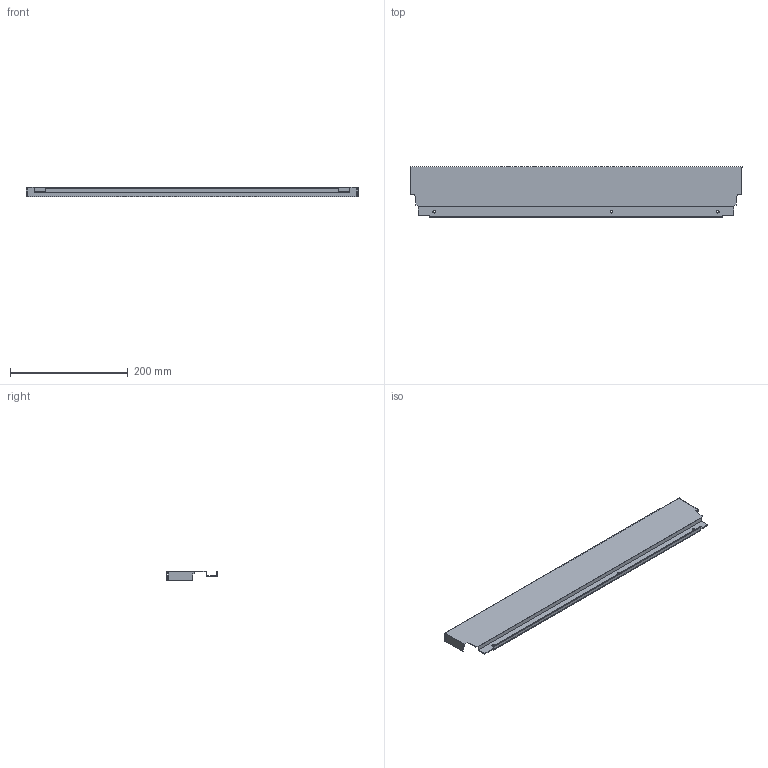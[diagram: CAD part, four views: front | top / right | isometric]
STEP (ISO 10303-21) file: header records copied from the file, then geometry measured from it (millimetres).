
FILE_DESCRIPTION (( 'STEP AP214' ), '1' );
FILE_NAME ('_DWD_XP Stahlrückwand_H86_KAB650_S19.step', '2010-07-08T12:10:35', ( 'grass' ), ( '' ), 'SwSTEP 2.0', 'SolidWorks 2010', '' );
FILE_SCHEMA (( 'AUTOMOTIVE_DESIGN' ));
Length unit declared in the file: millimetre
Products named in the file (1): _DWD_XP Stahlrückwand_H86_KAB650_S19
Bounding box: 563 x 85.79 x 16 mm (x, y, z)
Volume: 60012.5 mm3; surface area: 130718.3 mm2
Topology: 1 solids, 1 shells, 50 faces, 144 edges, 96 vertices
Faces by surface type: plane 44, cylinder 6
Entity records: 1666 total; most frequent: CARTESIAN_POINT 291, ORIENTED_EDGE 288, DIRECTION 258, EDGE_CURVE 144, LINE 132, VECTOR 132, VERTEX_POINT 96, AXIS2_PLACEMENT_3D 63
